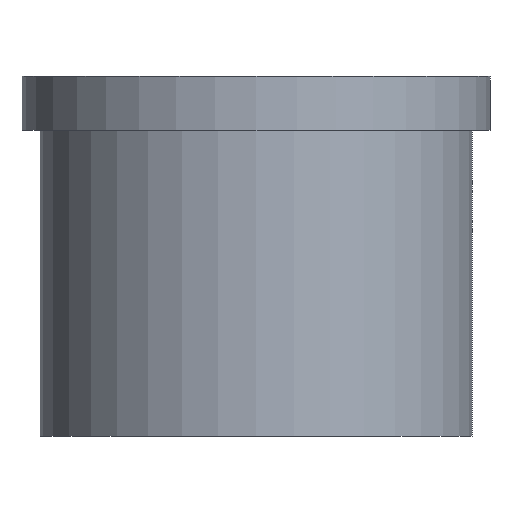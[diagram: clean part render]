
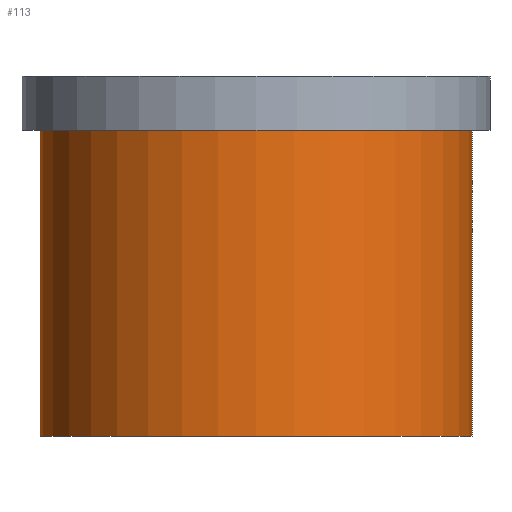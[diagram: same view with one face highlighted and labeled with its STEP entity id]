
A CAD part, front view. The second image highlights one B-rep face of the part: STEP entity #113.
In plain terms, the highlighted cylindrical face has radius 12 mm (diameter 24 mm), a partial arc.
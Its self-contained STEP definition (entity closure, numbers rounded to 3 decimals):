
#113=ADVANCED_FACE('',(#126),#120,.T.);
#120=CYLINDRICAL_SURFACE('',#249,12.);
#126=FACE_OUTER_BOUND('',#136,.T.);
#136=EDGE_LOOP('',(#179,#180,#181,#182));
#148=CIRCLE('',#244,12.);
#150=CIRCLE('',#248,12.);
#179=ORIENTED_EDGE('',*,*,#213,.F.);
#180=ORIENTED_EDGE('',*,*,#212,.T.);
#181=ORIENTED_EDGE('',*,*,#215,.T.);
#182=ORIENTED_EDGE('',*,*,#216,.F.);
#195=VERTEX_POINT('',#328);
#196=VERTEX_POINT('',#329);
#197=VERTEX_POINT('',#333);
#198=VERTEX_POINT('',#335);
#212=EDGE_CURVE('',#196,#195,#148,.T.);
#213=EDGE_CURVE('',#196,#197,#221,.T.);
#215=EDGE_CURVE('',#195,#198,#222,.T.);
#216=EDGE_CURVE('',#197,#198,#150,.T.);
#221=LINE('',#332,#227);
#222=LINE('',#336,#228);
#227=VECTOR('',#289,1.);
#228=VECTOR('',#292,1.);
#244=AXIS2_PLACEMENT_3D('',#330,#285,#286);
#248=AXIS2_PLACEMENT_3D('',#338,#295,#296);
#249=AXIS2_PLACEMENT_3D('',#339,#297,#298);
#285=DIRECTION('',(0.,0.,1.));
#286=DIRECTION('',(0.,1.,0.));
#289=DIRECTION('',(0.,0.,1.));
#292=DIRECTION('',(0.,0.,1.));
#295=DIRECTION('',(0.,0.,1.));
#296=DIRECTION('',(0.,1.,0.));
#297=DIRECTION('',(0.,0.,1.));
#298=DIRECTION('',(0.,-1.,0.));
#328=CARTESIAN_POINT('',(12.,0.,-17.));
#329=CARTESIAN_POINT('',(-12.,0.,-17.));
#330=CARTESIAN_POINT('',(0.,0.,-17.));
#332=CARTESIAN_POINT('',(-12.,0.,-17.));
#333=CARTESIAN_POINT('',(-12.,0.,0.));
#335=CARTESIAN_POINT('',(12.,0.,0.));
#336=CARTESIAN_POINT('',(12.,0.,-17.));
#338=CARTESIAN_POINT('',(0.,0.,0.));
#339=CARTESIAN_POINT('',(0.,0.,-17.));
